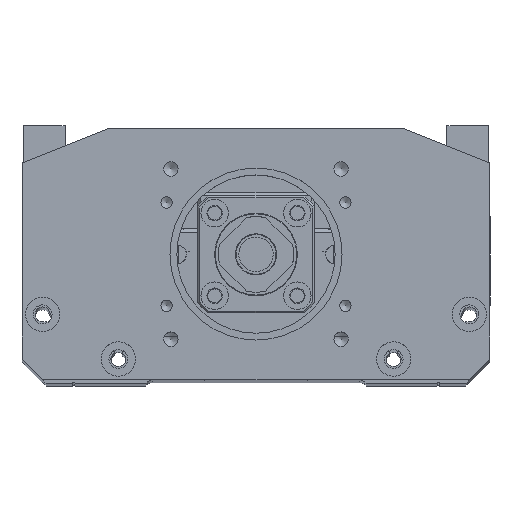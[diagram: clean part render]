
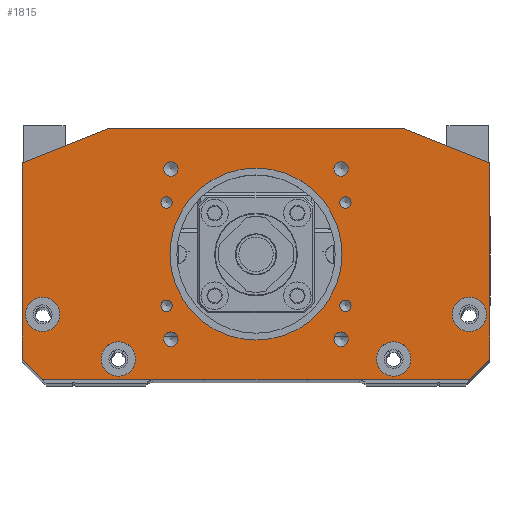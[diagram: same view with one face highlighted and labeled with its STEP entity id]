
A CAD part, top view. The second image highlights one B-rep face of the part: STEP entity #1815.
In plain terms, the highlighted planar face has unit normal (0, 0, 1).
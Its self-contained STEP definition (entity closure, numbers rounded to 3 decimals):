
#438=FACE_BOUND('',#3566,.T.);
#439=FACE_BOUND('',#3567,.T.);
#440=FACE_BOUND('',#3568,.T.);
#441=FACE_BOUND('',#3569,.T.);
#442=FACE_BOUND('',#3570,.T.);
#443=FACE_BOUND('',#3571,.T.);
#444=FACE_BOUND('',#3572,.T.);
#445=FACE_BOUND('',#3573,.T.);
#446=FACE_BOUND('',#3574,.T.);
#447=FACE_BOUND('',#3575,.T.);
#448=FACE_BOUND('',#3576,.T.);
#449=FACE_BOUND('',#3577,.T.);
#450=FACE_BOUND('',#3578,.T.);
#451=FACE_BOUND('',#3579,.T.);
#1104=PLANE('',#14274);
#1815=ADVANCED_FACE('9',(#438,#439,#440,#441,#442,#443,#444,#445,#446,#447,
#448,#449,#450,#451),#1104,.T.);
#3566=EDGE_LOOP('',(#6749));
#3567=EDGE_LOOP('',(#6750));
#3568=EDGE_LOOP('',(#6751));
#3569=EDGE_LOOP('',(#6752));
#3570=EDGE_LOOP('',(#6753));
#3571=EDGE_LOOP('',(#6754));
#3572=EDGE_LOOP('',(#6755));
#3573=EDGE_LOOP('',(#6756));
#3574=EDGE_LOOP('',(#6757));
#3575=EDGE_LOOP('',(#6758));
#3576=EDGE_LOOP('',(#6759));
#3577=EDGE_LOOP('',(#6760));
#3578=EDGE_LOOP('',(#6761));
#3579=EDGE_LOOP('',(#6762,#6763,#6764,#6765,#6766,#6767,#6768,#6769));
#4565=CIRCLE('',#14261,1.65);
#4566=CIRCLE('',#14262,1.65);
#4567=CIRCLE('',#14263,1.65);
#4568=CIRCLE('',#14264,1.65);
#4569=CIRCLE('',#14265,2.1);
#4570=CIRCLE('',#14266,2.1);
#4571=CIRCLE('',#14267,2.1);
#4572=CIRCLE('',#14268,2.1);
#4573=CIRCLE('',#14269,25.);
#4574=CIRCLE('',#14270,5.);
#4575=CIRCLE('',#14271,5.);
#4576=CIRCLE('',#14272,5.);
#4577=CIRCLE('',#14273,5.);
#6749=ORIENTED_EDGE('',*,*,#10934,.F.);
#6750=ORIENTED_EDGE('',*,*,#10935,.F.);
#6751=ORIENTED_EDGE('',*,*,#10936,.F.);
#6752=ORIENTED_EDGE('',*,*,#10937,.F.);
#6753=ORIENTED_EDGE('',*,*,#10938,.F.);
#6754=ORIENTED_EDGE('',*,*,#10939,.F.);
#6755=ORIENTED_EDGE('',*,*,#10940,.F.);
#6756=ORIENTED_EDGE('',*,*,#10941,.F.);
#6757=ORIENTED_EDGE('',*,*,#10942,.F.);
#6758=ORIENTED_EDGE('',*,*,#10943,.F.);
#6759=ORIENTED_EDGE('',*,*,#10944,.F.);
#6760=ORIENTED_EDGE('',*,*,#10945,.F.);
#6761=ORIENTED_EDGE('',*,*,#10946,.F.);
#6762=ORIENTED_EDGE('',*,*,#10025,.F.);
#6763=ORIENTED_EDGE('',*,*,#10904,.T.);
#6764=ORIENTED_EDGE('',*,*,#10947,.F.);
#6765=ORIENTED_EDGE('',*,*,#10907,.T.);
#6766=ORIENTED_EDGE('',*,*,#9930,.F.);
#6767=ORIENTED_EDGE('',*,*,#9983,.T.);
#6768=ORIENTED_EDGE('',*,*,#9999,.F.);
#6769=ORIENTED_EDGE('',*,*,#10014,.T.);
#8607=VERTEX_POINT('',#19437);
#8608=VERTEX_POINT('',#19439);
#8648=VERTEX_POINT('',#19540);
#8660=VERTEX_POINT('',#19571);
#8670=VERTEX_POINT('',#19599);
#8679=VERTEX_POINT('',#19621);
#9259=VERTEX_POINT('',#23653);
#9261=VERTEX_POINT('',#23659);
#9279=VERTEX_POINT('',#23716);
#9280=VERTEX_POINT('',#23718);
#9281=VERTEX_POINT('',#23720);
#9282=VERTEX_POINT('',#23722);
#9283=VERTEX_POINT('',#23724);
#9284=VERTEX_POINT('',#23726);
#9285=VERTEX_POINT('',#23728);
#9286=VERTEX_POINT('',#23730);
#9287=VERTEX_POINT('',#23732);
#9288=VERTEX_POINT('',#23734);
#9289=VERTEX_POINT('',#23736);
#9290=VERTEX_POINT('',#23738);
#9291=VERTEX_POINT('',#23740);
#9930=EDGE_CURVE('',#8607,#8608,#11640,.T.);
#9983=EDGE_CURVE('',#8607,#8648,#11683,.T.);
#9999=EDGE_CURVE('',#8660,#8648,#11697,.T.);
#10014=EDGE_CURVE('',#8660,#8670,#11710,.T.);
#10025=EDGE_CURVE('',#8679,#8670,#11719,.T.);
#10904=EDGE_CURVE('',#8679,#9259,#12178,.T.);
#10907=EDGE_CURVE('',#9261,#8608,#12181,.T.);
#10934=EDGE_CURVE('',#9279,#9279,#4565,.T.);
#10935=EDGE_CURVE('',#9280,#9280,#4566,.T.);
#10936=EDGE_CURVE('',#9281,#9281,#4567,.T.);
#10937=EDGE_CURVE('',#9282,#9282,#4568,.T.);
#10938=EDGE_CURVE('',#9283,#9283,#4569,.T.);
#10939=EDGE_CURVE('',#9284,#9284,#4570,.T.);
#10940=EDGE_CURVE('',#9285,#9285,#4571,.T.);
#10941=EDGE_CURVE('',#9286,#9286,#4572,.T.);
#10942=EDGE_CURVE('',#9287,#9287,#4573,.T.);
#10943=EDGE_CURVE('',#9288,#9288,#4574,.T.);
#10944=EDGE_CURVE('',#9289,#9289,#4575,.T.);
#10945=EDGE_CURVE('',#9290,#9290,#4576,.T.);
#10946=EDGE_CURVE('',#9291,#9291,#4577,.T.);
#10947=EDGE_CURVE('',#9261,#9259,#12195,.T.);
#11640=LINE('',#19438,#12583);
#11683=LINE('',#19541,#12626);
#11697=LINE('',#19572,#12640);
#11710=LINE('',#19600,#12653);
#11719=LINE('',#19622,#12662);
#12178=LINE('',#23652,#13121);
#12181=LINE('',#23658,#13124);
#12195=LINE('',#23741,#13138);
#12583=VECTOR('',#15187,1.);
#12626=VECTOR('',#15268,1.);
#12640=VECTOR('',#15292,1.);
#12653=VECTOR('',#15315,1.);
#12662=VECTOR('',#15332,1.);
#13121=VECTOR('',#17175,1.);
#13124=VECTOR('',#17180,1.);
#13138=VECTOR('',#17270,1.);
#14261=AXIS2_PLACEMENT_3D('',#23715,#17244,#17245);
#14262=AXIS2_PLACEMENT_3D('',#23717,#17246,#17247);
#14263=AXIS2_PLACEMENT_3D('',#23719,#17248,#17249);
#14264=AXIS2_PLACEMENT_3D('',#23721,#17250,#17251);
#14265=AXIS2_PLACEMENT_3D('',#23723,#17252,#17253);
#14266=AXIS2_PLACEMENT_3D('',#23725,#17254,#17255);
#14267=AXIS2_PLACEMENT_3D('',#23727,#17256,#17257);
#14268=AXIS2_PLACEMENT_3D('',#23729,#17258,#17259);
#14269=AXIS2_PLACEMENT_3D('',#23731,#17260,#17261);
#14270=AXIS2_PLACEMENT_3D('',#23733,#17262,#17263);
#14271=AXIS2_PLACEMENT_3D('',#23735,#17264,#17265);
#14272=AXIS2_PLACEMENT_3D('',#23737,#17266,#17267);
#14273=AXIS2_PLACEMENT_3D('',#23739,#17268,#17269);
#14274=AXIS2_PLACEMENT_3D('',#23742,#17271,#17272);
#15187=DIRECTION('',(0.,1.,0.));
#15268=DIRECTION('',(0.707,-0.707,0.));
#15292=DIRECTION('',(-1.,0.,0.));
#15315=DIRECTION('',(0.707,0.707,0.));
#15332=DIRECTION('',(0.,-1.,0.));
#17175=DIRECTION('',(-0.928,0.371,0.));
#17180=DIRECTION('',(-0.928,-0.371,0.));
#17244=DIRECTION('',(0.,0.,1.));
#17245=DIRECTION('',(1.,0.,0.));
#17246=DIRECTION('',(0.,0.,1.));
#17247=DIRECTION('',(1.,0.,0.));
#17248=DIRECTION('',(0.,0.,1.));
#17249=DIRECTION('',(1.,0.,0.));
#17250=DIRECTION('',(0.,0.,1.));
#17251=DIRECTION('',(1.,0.,0.));
#17252=DIRECTION('',(0.,0.,1.));
#17253=DIRECTION('',(1.,0.,0.));
#17254=DIRECTION('',(0.,0.,1.));
#17255=DIRECTION('',(1.,0.,0.));
#17256=DIRECTION('',(0.,0.,1.));
#17257=DIRECTION('',(1.,0.,0.));
#17258=DIRECTION('',(0.,0.,1.));
#17259=DIRECTION('',(1.,0.,0.));
#17260=DIRECTION('',(0.,0.,1.));
#17261=DIRECTION('',(1.,0.,0.));
#17262=DIRECTION('',(0.,0.,1.));
#17263=DIRECTION('',(1.,0.,0.));
#17264=DIRECTION('',(0.,0.,1.));
#17265=DIRECTION('',(1.,0.,0.));
#17266=DIRECTION('',(0.,0.,1.));
#17267=DIRECTION('',(1.,0.,0.));
#17268=DIRECTION('',(0.,0.,1.));
#17269=DIRECTION('',(1.,0.,0.));
#17270=DIRECTION('',(1.,0.,0.));
#17271=DIRECTION('',(0.,0.,1.));
#17272=DIRECTION('',(-1.,0.,0.));
#19437=CARTESIAN_POINT('',(-68.,6.,180.));
#19438=CARTESIAN_POINT('',(-68.,0.,180.));
#19439=CARTESIAN_POINT('',(-68.,63.,180.));
#19540=CARTESIAN_POINT('',(-62.,0.,180.));
#19541=CARTESIAN_POINT('',(-49.25,-12.75,180.));
#19571=CARTESIAN_POINT('',(62.,0.,180.));
#19572=CARTESIAN_POINT('',(68.,0.,180.));
#19599=CARTESIAN_POINT('',(68.,6.,180.));
#19600=CARTESIAN_POINT('',(49.25,-12.75,180.));
#19621=CARTESIAN_POINT('',(68.,63.,180.));
#19622=CARTESIAN_POINT('',(68.,0.,180.));
#23652=CARTESIAN_POINT('',(18.517,82.793,180.));
#23653=CARTESIAN_POINT('',(43.,73.,180.));
#23658=CARTESIAN_POINT('',(-18.517,82.793,180.));
#23659=CARTESIAN_POINT('',(-43.,73.,180.));
#23715=CARTESIAN_POINT('',(25.981,51.5,180.));
#23716=CARTESIAN_POINT('',(27.631,51.5,180.));
#23717=CARTESIAN_POINT('',(25.981,21.5,180.));
#23718=CARTESIAN_POINT('',(27.631,21.5,180.));
#23719=CARTESIAN_POINT('',(-25.981,21.5,180.));
#23720=CARTESIAN_POINT('',(-24.331,21.5,180.));
#23721=CARTESIAN_POINT('',(-25.981,51.5,180.));
#23722=CARTESIAN_POINT('',(-24.331,51.5,180.));
#23723=CARTESIAN_POINT('',(-24.749,61.249,180.));
#23724=CARTESIAN_POINT('',(-22.649,61.249,180.));
#23725=CARTESIAN_POINT('',(24.749,61.249,180.));
#23726=CARTESIAN_POINT('',(26.849,61.249,180.));
#23727=CARTESIAN_POINT('',(24.749,11.751,180.));
#23728=CARTESIAN_POINT('',(26.849,11.751,180.));
#23729=CARTESIAN_POINT('',(-24.749,11.751,180.));
#23730=CARTESIAN_POINT('',(-22.649,11.751,180.));
#23731=CARTESIAN_POINT('',(0.,36.5,180.));
#23732=CARTESIAN_POINT('',(25.,36.5,180.));
#23733=CARTESIAN_POINT('',(-62.,19.,180.));
#23734=CARTESIAN_POINT('',(-57.,19.,180.));
#23735=CARTESIAN_POINT('',(62.,19.,180.));
#23736=CARTESIAN_POINT('',(67.,19.,180.));
#23737=CARTESIAN_POINT('',(-40.,6.,180.));
#23738=CARTESIAN_POINT('',(-35.,6.,180.));
#23739=CARTESIAN_POINT('',(40.,6.,180.));
#23740=CARTESIAN_POINT('',(45.,6.,180.));
#23741=CARTESIAN_POINT('',(68.,73.,180.));
#23742=CARTESIAN_POINT('',(0.,36.5,180.));
